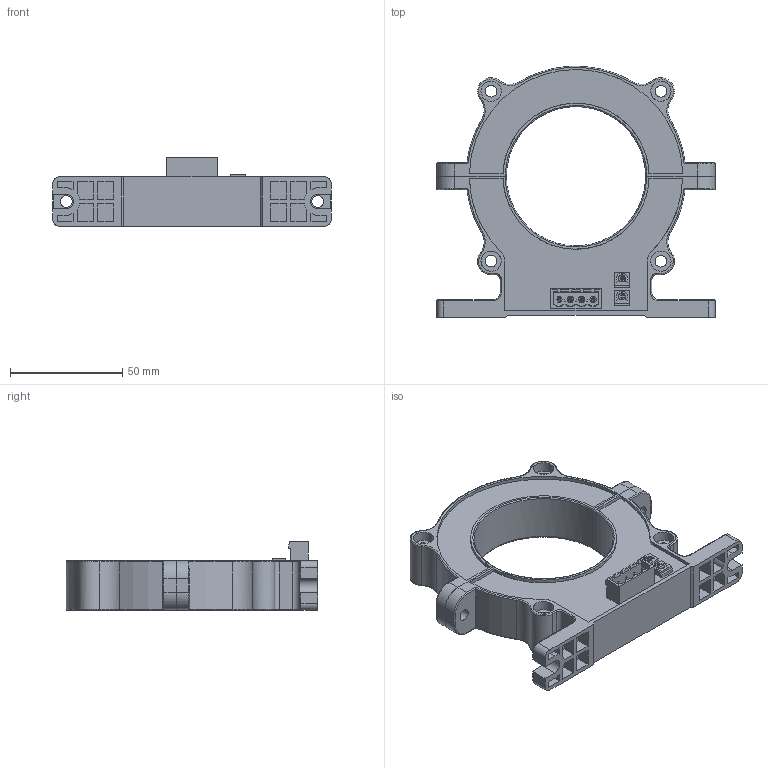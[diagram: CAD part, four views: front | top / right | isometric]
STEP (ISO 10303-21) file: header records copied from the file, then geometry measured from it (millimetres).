
FILE_DESCRIPTION( ('This file contains a STEP AP42 implementation' ,'as created by ZW3D STEP Interface translator.') ,'2;1' );
FILE_NAME( 'EKF俋倰-3D.stp' ,'22 8 9.154013', (''), ('ZWCAD Software Co.'), 'Version 1.0', 'ZW3D to STEP translator', '' );
FILE_SCHEMA( ('CONFIG_CONTROL_DESIGN') );
Length unit declared in the file: millimetre
Products named in the file (1): 0
Bounding box: 124 x 111.95 x 30.5 mm (x, y, z)
Volume: 138383.2 mm3; surface area: 40262.1 mm2
Topology: 9 solids, 9 shells, 679 faces, 1694 edges, 1118 vertices
Faces by surface type: bspline 679
Entity records: 26504 total; most frequent: CARTESIAN_POINT 15670, ORIENTED_EDGE 3388, EDGE_CURVE 1694, B_SPLINE_CURVE_WITH_KNOTS 1190, VERTEX_POINT 1118, EDGE_LOOP 780, FACE_OUTER_BOUND 679, ADVANCED_FACE 679
